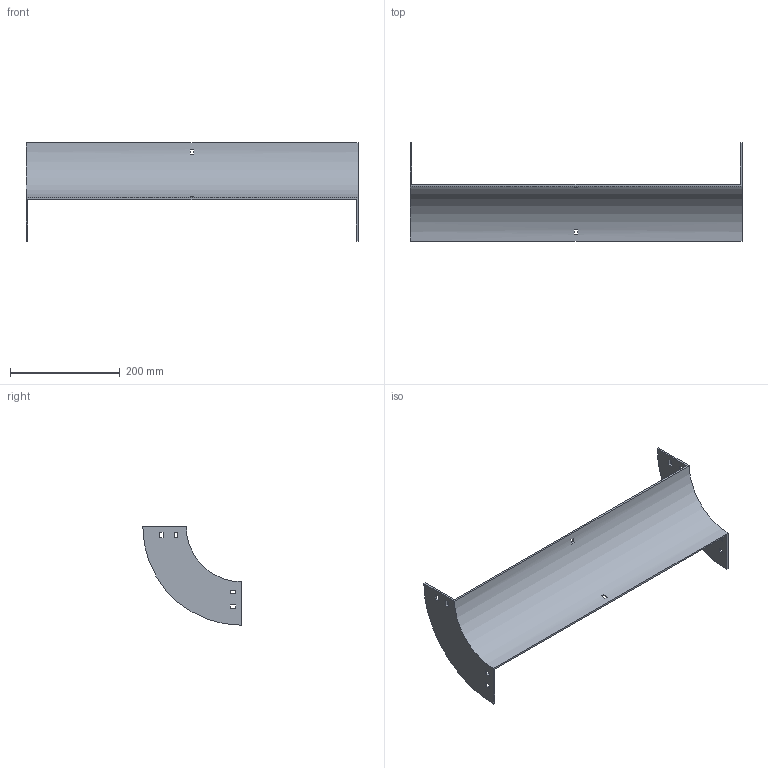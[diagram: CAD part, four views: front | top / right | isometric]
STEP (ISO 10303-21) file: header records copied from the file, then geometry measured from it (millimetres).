
FILE_DESCRIPTION (( 'STEP AP214' ), '1' );
FILE_NAME ('33B1C600.step', '2025-02-21T09:32:49', ( '' ), ( '' ), 'SwSTEP 2.0', 'SolidWorks 2023', '' );
FILE_SCHEMA (( 'AUTOMOTIVE_DESIGN' ));
Length unit declared in the file: millimetre
Products named in the file (1): 33B1C600
Bounding box: 604 x 179 x 179 mm (x, y, z)
Volume: 452763.3 mm3; surface area: 267127.9 mm2
Topology: 1 solids, 1 shells, 50 faces, 144 edges, 96 vertices
Faces by surface type: plane 46, cylinder 4
Entity records: 1687 total; most frequent: CARTESIAN_POINT 291, ORIENTED_EDGE 288, DIRECTION 262, EDGE_CURVE 144, LINE 128, VECTOR 128, VERTEX_POINT 96, EDGE_LOOP 70
